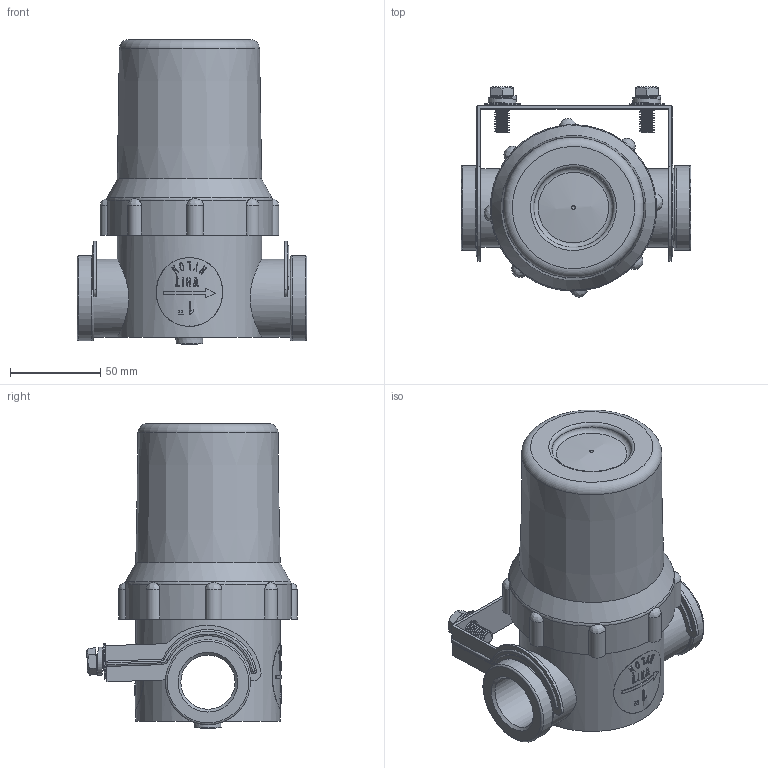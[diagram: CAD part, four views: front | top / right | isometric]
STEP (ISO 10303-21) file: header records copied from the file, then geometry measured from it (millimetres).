
FILE_DESCRIPTION(/* description */ ('FILTRO x VUOTO'),/* implementation_level */ '2;1');
FILE_NAME(/* name */ 'C:\PNX_VAULTFOLDER\Area Tecnica\Disegni\VARIE-3D\Componenti\1900 (vuoto)\19F10_V_00.stp',/* time_stamp */ '2019-09-13T15:00:48+02:00',/* author */ ('maniean1'),/* organization */ (''),/* preprocessor_version */ 'ST-DEVELOPER v17',/* originating_system */ 'Autodesk Inventor 2019',/* authorisation */ '');
FILE_SCHEMA (('AUTOMOTIVE_DESIGN { 1 0 10303 214 3 1 1 }'));
Length unit declared in the file: millimetre
Products named in the file (1): 19F10.V.00
Bounding box: 127 x 116.33 x 168.38 mm (x, y, z)
Surface area: 91133.6 mm2
Topology: 4 solids, 13 shells, 458 faces, 1546 edges, 1062 vertices
Faces by surface type: bspline 198, cylinder 120, plane 103, torus 24, cone 11, sphere 2
Full cylindrical faces by diameter (mm): 8 x30, 10.5 x2, 10.6 x2, 19.8 x2, 30 x2, 43.2 x2, 47 x2, 79.8 x1, 86.2 x1
Entity records: 52459 total; most frequent: CARTESIAN_POINT 40456, ORIENTED_EDGE 2677, DIRECTION 1971, EDGE_CURVE 1546, VERTEX_POINT 1062, AXIS2_PLACEMENT_3D 695, LINE 581, VECTOR 581
